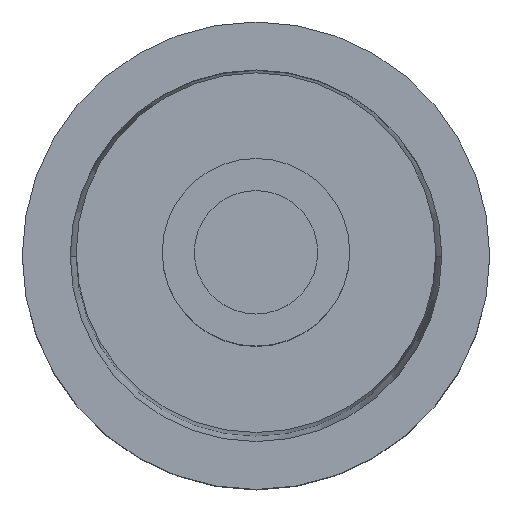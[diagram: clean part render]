
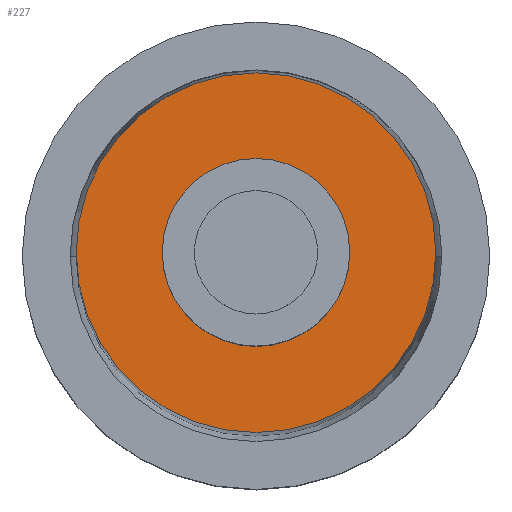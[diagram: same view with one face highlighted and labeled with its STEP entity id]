
A CAD part, top view. The second image highlights one B-rep face of the part: STEP entity #227.
In plain terms, the highlighted planar face has unit normal (0, 0, 1).
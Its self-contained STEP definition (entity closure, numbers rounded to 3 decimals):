
#66 = ORIENTED_EDGE ( 'NONE', *, *, #5849, .T. ) ;
#227 = ADVANCED_FACE ( 'NONE', ( #9849, #8801 ), #871, .T. ) ;
#245 = DIRECTION ( 'NONE',  ( 1., 0., 0. ) ) ;
#283 = DIRECTION ( 'NONE',  ( 1., 0., 0. ) ) ;
#374 = AXIS2_PLACEMENT_3D ( 'NONE', #6132, #10317, #245 ) ;
#839 = EDGE_LOOP ( 'NONE', ( #10244, #9662 ) ) ;
#871 = PLANE ( 'NONE',  #7446 ) ;
#1225 = DIRECTION ( 'NONE',  ( 0., 0., 1. ) ) ;
#1267 = DIRECTION ( 'NONE',  ( 1., 0., 0. ) ) ;
#1328 = AXIS2_PLACEMENT_3D ( 'NONE', #9353, #5910, #7578 ) ;
#1569 = CARTESIAN_POINT ( 'NONE',  ( -0.782, 0., 17. ) ) ;
#1657 = CIRCLE ( 'NONE', #374, 1.5 ) ;
#1756 = CARTESIAN_POINT ( 'NONE',  ( 0., 0., 17. ) ) ;
#1788 = CIRCLE ( 'NONE', #7328, 0.782 ) ;
#1914 = VERTEX_POINT ( 'NONE', #1569 ) ;
#2794 = AXIS2_PLACEMENT_3D ( 'NONE', #7987, #1225, #8716 ) ;
#3393 = DIRECTION ( 'NONE',  ( 0., 0., 1. ) ) ;
#3780 = CARTESIAN_POINT ( 'NONE',  ( 0., 0., 17. ) ) ;
#4413 = EDGE_CURVE ( 'NONE', #6427, #6227, #8620, .T. ) ;
#4599 = EDGE_LOOP ( 'NONE', ( #9237, #66 ) ) ;
#4687 = VERTEX_POINT ( 'NONE', #5817 ) ;
#4736 = CARTESIAN_POINT ( 'NONE',  ( -1.5, 0., 17. ) ) ;
#5817 = CARTESIAN_POINT ( 'NONE',  ( 0.782, 0., 17. ) ) ;
#5849 = EDGE_CURVE ( 'NONE', #6227, #6427, #1657, .T. ) ;
#5910 = DIRECTION ( 'NONE',  ( 0., 0., 1. ) ) ;
#5997 = EDGE_CURVE ( 'NONE', #4687, #1914, #1788, .T. ) ;
#6132 = CARTESIAN_POINT ( 'NONE',  ( 0., 0., 17. ) ) ;
#6227 = VERTEX_POINT ( 'NONE', #9654 ) ;
#6427 = VERTEX_POINT ( 'NONE', #4736 ) ;
#7328 = AXIS2_PLACEMENT_3D ( 'NONE', #3780, #9637, #1267 ) ;
#7446 = AXIS2_PLACEMENT_3D ( 'NONE', #1756, #3393, #283 ) ;
#7578 = DIRECTION ( 'NONE',  ( 1., 0., 0. ) ) ;
#7987 = CARTESIAN_POINT ( 'NONE',  ( 0., 0., 17. ) ) ;
#8230 = EDGE_CURVE ( 'NONE', #1914, #4687, #8872, .T. ) ;
#8620 = CIRCLE ( 'NONE', #2794, 1.5 ) ;
#8716 = DIRECTION ( 'NONE',  ( 1., 0., 0. ) ) ;
#8801 = FACE_BOUND ( 'NONE', #839, .T. ) ;
#8872 = CIRCLE ( 'NONE', #1328, 0.782 ) ;
#9237 = ORIENTED_EDGE ( 'NONE', *, *, #4413, .T. ) ;
#9353 = CARTESIAN_POINT ( 'NONE',  ( 0., 0., 17. ) ) ;
#9637 = DIRECTION ( 'NONE',  ( 0., 0., 1. ) ) ;
#9654 = CARTESIAN_POINT ( 'NONE',  ( 1.5, 0., 17. ) ) ;
#9662 = ORIENTED_EDGE ( 'NONE', *, *, #5997, .F. ) ;
#9849 = FACE_OUTER_BOUND ( 'NONE', #4599, .T. ) ;
#10244 = ORIENTED_EDGE ( 'NONE', *, *, #8230, .F. ) ;
#10317 = DIRECTION ( 'NONE',  ( 0., 0., 1. ) ) ;
